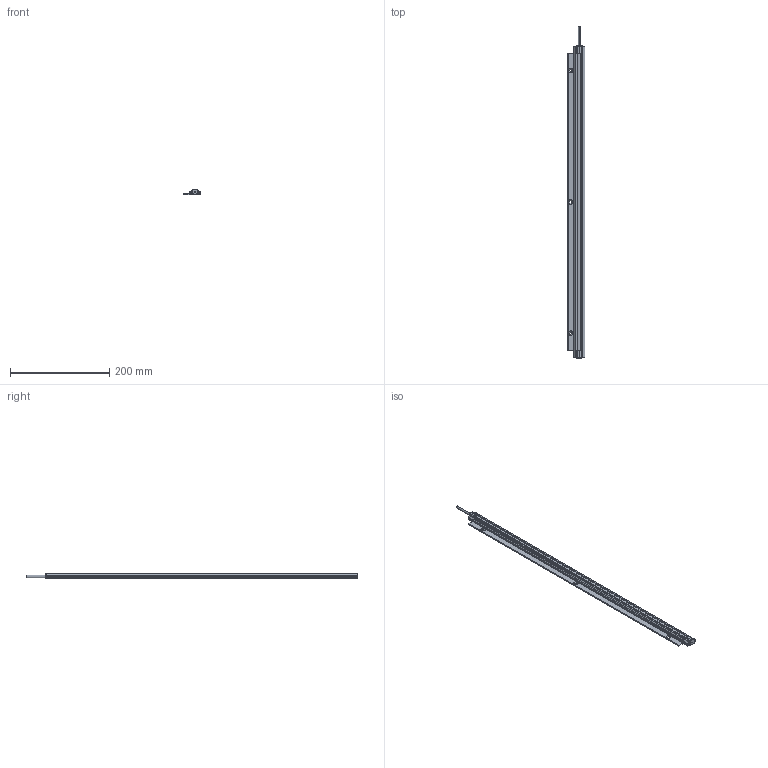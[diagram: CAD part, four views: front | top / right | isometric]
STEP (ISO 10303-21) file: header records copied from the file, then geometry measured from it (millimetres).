
FILE_DESCRIPTION (( 'STEP AP214' ), '1' );
FILE_NAME ('ILGA-L-K1-0630mm.STEP', '2026-04-24T23:06:33', ( '' ), ( '' ), 'SwSTEP 2.0', 'SolidWorks 2025', '' );
FILE_SCHEMA (( 'AUTOMOTIVE_DESIGN' ));
Length unit declared in the file: millimetre
Products named in the file (1): ILGA-L-K1-0630mm
Bounding box: 35 x 670 x 10.7 mm (x, y, z)
Volume: 66673.4 mm3; surface area: 97783.9 mm2
Topology: 9 solids, 9 shells, 678 faces, 1762 edges, 1076 vertices
Faces by surface type: plane 293, cylinder 245, cone 58, torus 42, bspline 24, sphere 16
Entity records: 28479 total; most frequent: CARTESIAN_POINT 4417, DIRECTION 3592, ORIENTED_EDGE 3436, EDGE_CURVE 1718, AXIS2_PLACEMENT_3D 1339, VERTEX_POINT 1076, LINE 914, VECTOR 914
